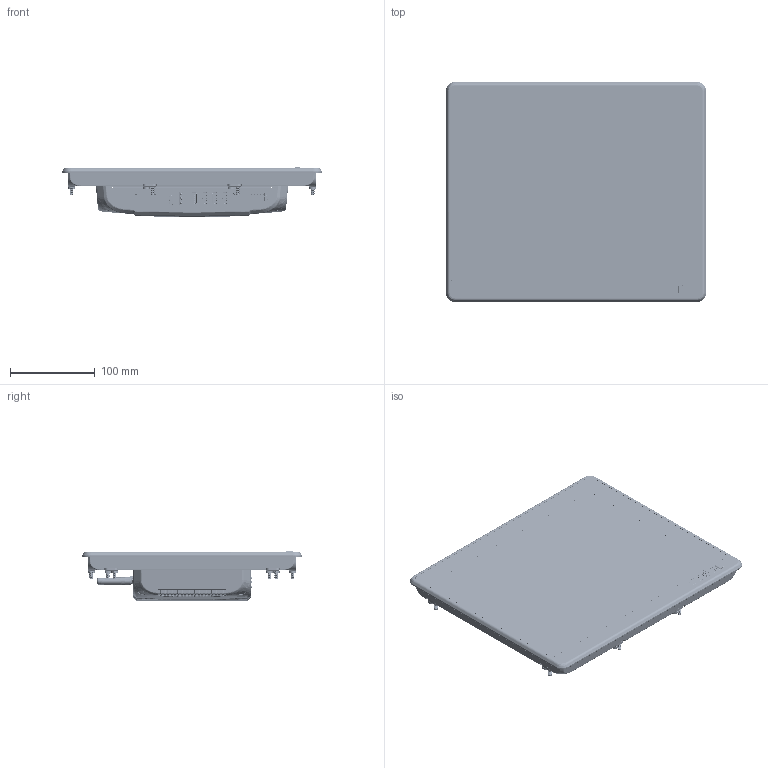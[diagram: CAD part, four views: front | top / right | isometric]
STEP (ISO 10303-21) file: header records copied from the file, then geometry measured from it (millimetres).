
FILE_DESCRIPTION (( 'STEP AP214' ), '1' );
FILE_NAME ('121.STEP', '2024-05-16T04:03:15', ( '' ), ( '' ), 'SwSTEP 2.0', 'SolidWorks 2018', '' );
FILE_SCHEMA (( 'AUTOMOTIVE_DESIGN' ));
Length unit declared in the file: millimetre
Products named in the file (1): 121
Bounding box: 305.76 x 258.76 x 58.5 mm (x, y, z)
Surface area: 555481.5 mm2 (no closed solid volume)
Topology: 0 solids, 824 shells, 13369 faces, 37102 edges, 24661 vertices
Faces by surface type: plane 7389, cylinder 3329, bspline 1661, torus 621, sphere 241, cone 128
Full cylindrical faces by diameter (mm): 0.3 x3, 0.34 x2, 0.5 x18, 0.7 x18, 0.8 x18, 1 x7, 1.2 x3, 1.4 x4, 1.5 x4, 2.2 x16, 2.3 x2, 2.5 x1, 2.6 x4, 3 x1, 3.2 x28, 3.5 x3, 4 x210, 4.2 x14, 4.5 x10, 4.9 x2, 5 x8, 5.1 x8, 5.9 x1, 6 x16, 7.306 x4, 7.6 x1, 8 x8, 8.1 x1, 8.429 x4
Entity records: 656612 total; most frequent: CARTESIAN_POINT 198129, ORIENTED_EDGE 67174, DIRECTION 57191, EDGE_CURVE 35615, VERTEX_POINT 24091, VECTOR 20655, LINE 20655, AXIS2_PLACEMENT_3D 18268
